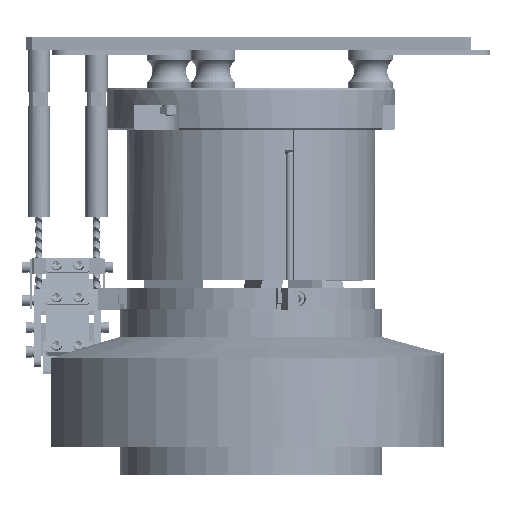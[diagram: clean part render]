
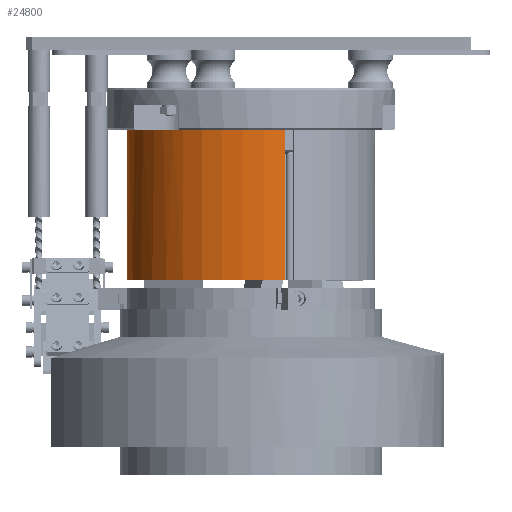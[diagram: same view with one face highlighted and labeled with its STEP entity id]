
A CAD part, left-side view. The second image highlights one B-rep face of the part: STEP entity #24800.
In plain terms, the highlighted cylindrical face has radius 111.7 mm (diameter 223.4 mm), a partial arc.
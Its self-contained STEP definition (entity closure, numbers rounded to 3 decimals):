
#2251=CARTESIAN_POINT('',(0.,173.,0.));
#2252=DIRECTION('',(0.,1.,0.));
#2253=DIRECTION('',(-0.036,0.,-0.999));
#2254=AXIS2_PLACEMENT_3D('',#2251,#2252,#2253);
#2305=CARTESIAN_POINT('',(0.,38.,0.));
#2306=DIRECTION('',(0.,-1.,0.));
#2307=DIRECTION('',(-0.777,0.,-0.63));
#2308=AXIS2_PLACEMENT_3D('',#2305,#2306,#2307);
#2362=CARTESIAN_POINT('',(0.,38.,0.));
#2363=DIRECTION('',(0.,1.,0.));
#2364=DIRECTION('',(-0.157,0.,0.988));
#2365=AXIS2_PLACEMENT_3D('',#2362,#2363,#2364);
#2381=CARTESIAN_POINT('',(0.,38.,0.));
#2382=DIRECTION('',(0.,1.,0.));
#2383=DIRECTION('',(-0.777,0.,-0.63));
#2384=AXIS2_PLACEMENT_3D('',#2381,#2382,#2383);
#2404=CARTESIAN_POINT('',(0.,38.,0.));
#2405=DIRECTION('',(0.,-1.,0.));
#2406=DIRECTION('',(-0.157,0.,0.988));
#2407=AXIS2_PLACEMENT_3D('',#2404,#2405,#2406);
#2432=DIRECTION('',(0.,1.,0.));
#2433=VECTOR('',#2432,135.);
#2434=CARTESIAN_POINT('',(-4.,38.,-111.628));
#2435=LINE('',#2434,#2433);
#2436=DIRECTION('',(0.,-1.,0.));
#2437=VECTOR('',#2436,135.);
#2438=CARTESIAN_POINT('',(-2.5,173.,111.672));
#2439=LINE('',#2438,#2437);
#19414=CARTESIAN_POINT('',(-2.5,173.,111.672));
#19416=VERTEX_POINT('',#19414);
#19418=CARTESIAN_POINT('',(-4.,173.,-111.628));
#19419=VERTEX_POINT('',#19418);
#19426=CARTESIAN_POINT('',(-2.5,38.,111.672));
#19427=VERTEX_POINT('',#19426);
#22399=CARTESIAN_POINT('',(-17.505,38.,110.32));
#22400=CARTESIAN_POINT('',(-104.292,38.,-40.));
#22401=VERTEX_POINT('',#22399);
#22402=VERTEX_POINT('',#22400);
#22408=CARTESIAN_POINT('',(-4.,38.,-111.628));
#22410=VERTEX_POINT('',#22408);
#22411=CARTESIAN_POINT('',(-86.787,38.,-70.32));
#22412=VERTEX_POINT('',#22411);
#24784=CARTESIAN_POINT('',(0.,105.5,0.));
#24785=DIRECTION('',(0.,-1.,0.));
#24786=DIRECTION('',(-0.022,0.,1.));
#24787=AXIS2_PLACEMENT_3D('',#24784,#24785,#24786);
#24788=CYLINDRICAL_SURFACE('',#24787,111.7);
#24789=ORIENTED_EDGE('',*,*,#24759,.T.);
#24790=ORIENTED_EDGE('',*,*,#24723,.F.);
#24791=ORIENTED_EDGE('',*,*,#24622,.T.);
#24793=ORIENTED_EDGE('',*,*,#24792,.T.);
#24794=ORIENTED_EDGE('',*,*,#24561,.T.);
#24796=ORIENTED_EDGE('',*,*,#24795,.T.);
#24797=ORIENTED_EDGE('',*,*,#24704,.F.);
#24798=EDGE_LOOP('',(#24789,#24790,#24791,#24793,#24794,#24796,#24797));
#24799=FACE_OUTER_BOUND('',#24798,.F.);
#2255=CIRCLE('',#2254,111.7);
#2309=CIRCLE('',#2308,111.7);
#2366=CIRCLE('',#2365,111.7);
#2385=CIRCLE('',#2384,111.7);
#2408=CIRCLE('',#2407,111.7);
#24561=EDGE_CURVE('',#19419,#19416,#2255,.T.);
#24622=EDGE_CURVE('',#22412,#22410,#2309,.T.);
#24704=EDGE_CURVE('',#22401,#19427,#2366,.T.);
#24723=EDGE_CURVE('',#22412,#22402,#2385,.T.);
#24759=EDGE_CURVE('',#22401,#22402,#2408,.T.);
#24792=EDGE_CURVE('',#22410,#19419,#2435,.T.);
#24795=EDGE_CURVE('',#19416,#19427,#2439,.T.);
#24800=ADVANCED_FACE('',(#24799),#24788,.T.);
